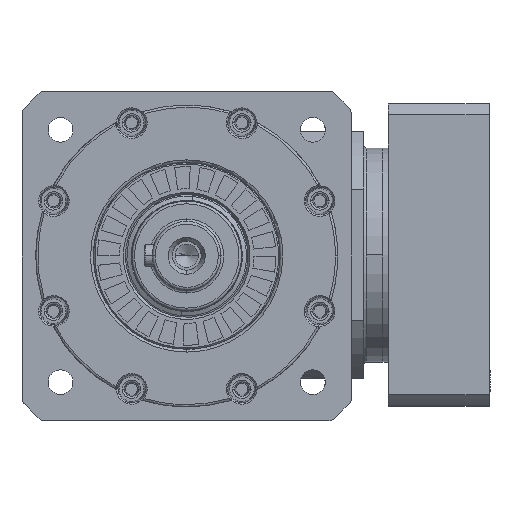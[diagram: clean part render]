
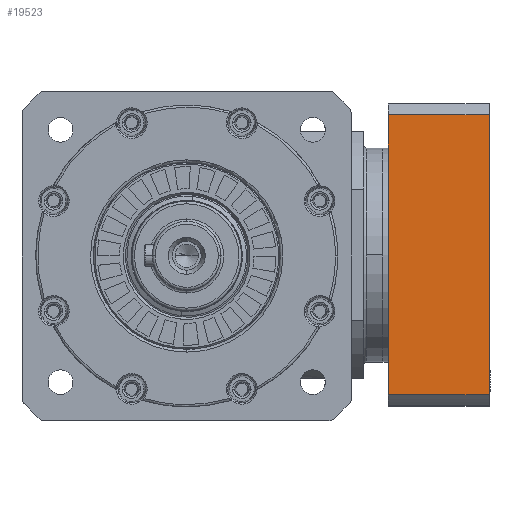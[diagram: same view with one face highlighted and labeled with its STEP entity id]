
A CAD part, top view. The second image highlights one B-rep face of the part: STEP entity #19523.
In plain terms, the highlighted planar face has unit normal (0, 0, 1) as drawn and (0, 1, 0) by its records, which use the part's own axes.
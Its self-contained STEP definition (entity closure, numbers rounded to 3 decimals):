
#2027 = VECTOR ( 'NONE', #38014, 1000. ) ;
#4021 = DIRECTION ( 'NONE',  ( -1., 0., 0. ) ) ;
#6863 = LINE ( 'NONE', #48852, #60199 ) ;
#7062 = ORIENTED_EDGE ( 'NONE', *, *, #37003, .F. ) ;
#7191 = VERTEX_POINT ( 'NONE', #55485 ) ;
#8224 = EDGE_LOOP ( 'NONE', ( #20238, #46466, #51652, #7062 ) ) ;
#12107 = VERTEX_POINT ( 'NONE', #33536 ) ;
#16192 = VERTEX_POINT ( 'NONE', #29027 ) ;
#16964 = DIRECTION ( 'NONE',  ( 1., 0., 0. ) ) ;
#19523 = ADVANCED_FACE ( 'NONE', ( #63857 ), #35520, .F. ) ;
#20238 = ORIENTED_EDGE ( 'NONE', *, *, #20969, .F. ) ;
#20969 = EDGE_CURVE ( 'NONE', #25973, #16192, #45087, .T. ) ;
#25973 = VERTEX_POINT ( 'NONE', #39615 ) ;
#29027 = CARTESIAN_POINT ( 'NONE',  ( -50.99, 55., 0.3 ) ) ;
#30999 = EDGE_CURVE ( 'NONE', #7191, #25973, #61902, .T. ) ;
#33536 = CARTESIAN_POINT ( 'NONE',  ( 50.99, 55., 0.3 ) ) ;
#34861 = DIRECTION ( 'NONE',  ( 0., 0., -1. ) ) ;
#34935 = DIRECTION ( 'NONE',  ( 0., -1., 0. ) ) ;
#34995 = CARTESIAN_POINT ( 'NONE',  ( -50.99, 55., 39. ) ) ;
#35520 = PLANE ( 'NONE',  #36132 ) ;
#36132 = AXIS2_PLACEMENT_3D ( 'NONE', #34995, #34935, #34861 ) ;
#37003 = EDGE_CURVE ( 'NONE', #16192, #12107, #58248, .T. ) ;
#37538 = CARTESIAN_POINT ( 'NONE',  ( -50.99, 55., 0.3 ) ) ;
#37552 = CARTESIAN_POINT ( 'NONE',  ( -50.99, 55., 39. ) ) ;
#38014 = DIRECTION ( 'NONE',  ( 0., 0., -1. ) ) ;
#39615 = CARTESIAN_POINT ( 'NONE',  ( -50.99, 55., 37. ) ) ;
#44589 = VECTOR ( 'NONE', #16964, 1000. ) ;
#45087 = LINE ( 'NONE', #37552, #2027 ) ;
#46466 = ORIENTED_EDGE ( 'NONE', *, *, #30999, .F. ) ;
#47864 = EDGE_CURVE ( 'NONE', #12107, #7191, #6863, .T. ) ;
#48259 = VECTOR ( 'NONE', #4021, 1000. ) ;
#48852 = CARTESIAN_POINT ( 'NONE',  ( 50.99, 55., 39. ) ) ;
#51652 = ORIENTED_EDGE ( 'NONE', *, *, #47864, .F. ) ;
#53991 = DIRECTION ( 'NONE',  ( 0., 0., 1. ) ) ;
#55485 = CARTESIAN_POINT ( 'NONE',  ( 50.99, 55., 37. ) ) ;
#58248 = LINE ( 'NONE', #37538, #44589 ) ;
#60199 = VECTOR ( 'NONE', #53991, 1000. ) ;
#60546 = CARTESIAN_POINT ( 'NONE',  ( 0., 55., 37. ) ) ;
#61902 = LINE ( 'NONE', #60546, #48259 ) ;
#63857 = FACE_OUTER_BOUND ( 'NONE', #8224, .T. ) ;
